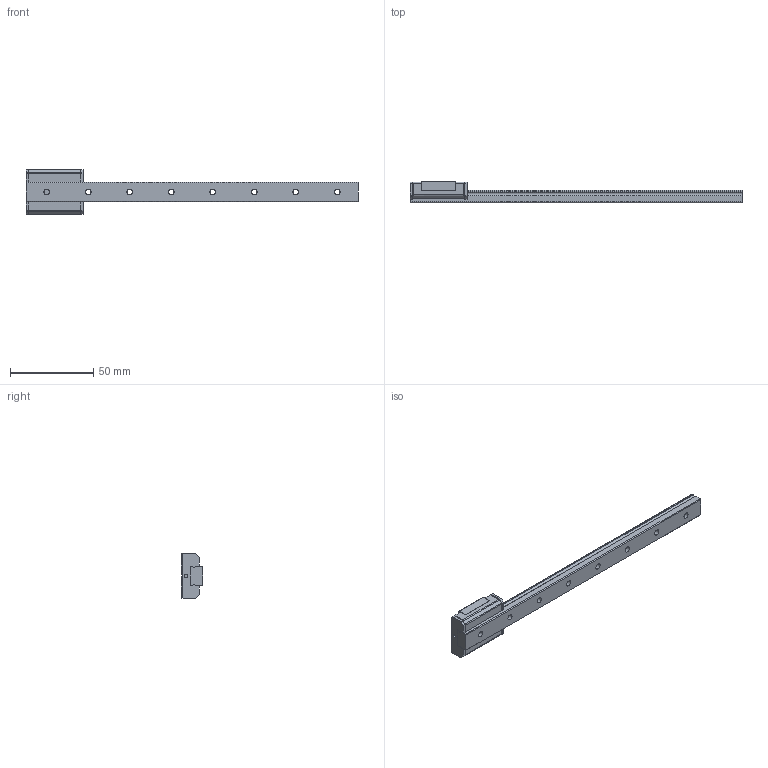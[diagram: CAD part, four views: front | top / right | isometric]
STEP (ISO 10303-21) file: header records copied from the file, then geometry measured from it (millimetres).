
FILE_DESCRIPTION(/* description */ ('STEP AP214'),/* implementation_level */ '2;1');
FILE_NAME(/* name */ 'SRS12MUU-200LM_G12-5_0_Without_grease_nipple_0_0_0_0_1',/* time_stamp */ '2024-08-14T02:12:33+02:00',/* author */ ('License CC BY-ND 4.0'),/* organization */ ('CADENAS'),/* preprocessor_version */ 'ST-DEVELOPER v19.3',/* originating_system */ 'PARTsolutions',/* authorisation */ ' ');
FILE_SCHEMA (('AUTOMOTIVE_DESIGN {1 0 10303 214 3 1 1}'));
Length unit declared in the file: millimetre
Products named in the file (3): SRS12MUU-200LM_G12-5_0_Without_grease_nipple_0_0_0_0_1; SRS12M20012.5 Track; SRS12MUU1 Slider
Assembly tree (2 placements, depth 2):
  SRS12MUU-200LM_G12-5_0_Without_grease_nipple_0_0_0_0_1
    SRS12M20012.5 Track
    SRS12MUU1 Slider
Bounding box: 200 x 13 x 27 mm (x, y, z)
Volume: 23519.3 mm3; surface area: 12299.1 mm2
Topology: 2 solids, 2 shells, 148 faces, 382 edges, 248 vertices
Faces by surface type: plane 91, cylinder 49, cone 8
Full cylindrical faces by diameter (mm): 2 x2, 2.459 x4, 3.5 x8, 6 x8
Entity records: 4393 total; most frequent: DIRECTION 752, CARTESIAN_POINT 739, ORIENTED_EDGE 688, EDGE_CURVE 344, AXIS2_PLACEMENT_3D 257, VERTEX_POINT 244, LINE 238, VECTOR 238
